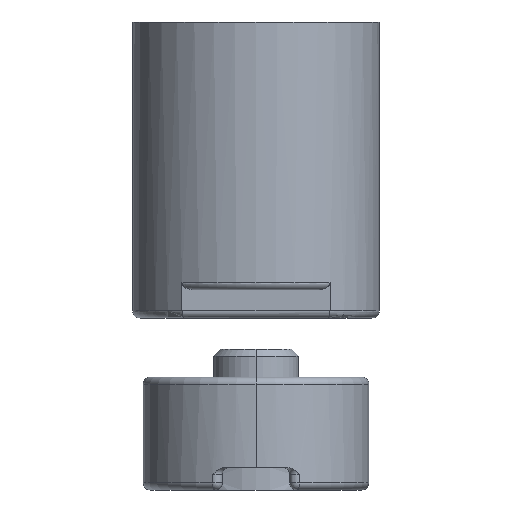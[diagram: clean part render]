
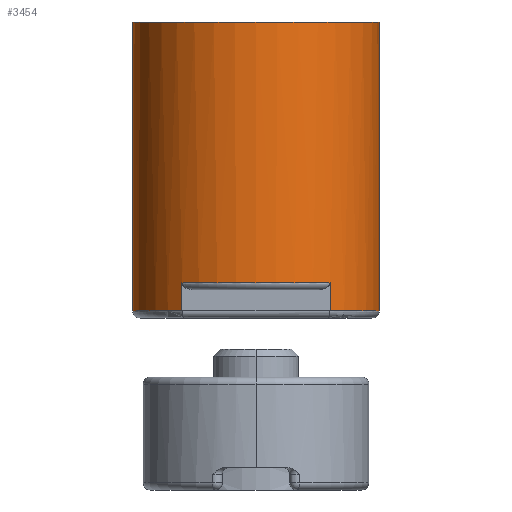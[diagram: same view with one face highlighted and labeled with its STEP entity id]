
A CAD part, front view. The second image highlights one B-rep face of the part: STEP entity #3454.
In plain terms, the highlighted cylindrical face has radius 8.75 mm (diameter 17.5 mm), a partial arc.
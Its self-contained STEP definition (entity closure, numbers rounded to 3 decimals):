
#2897=CARTESIAN_POINT('',(8.75,8.75,33.2));
#2898=DIRECTION('',(0.,0.,1.));
#2899=DIRECTION('',(-1.,0.,0.));
#2900=AXIS2_PLACEMENT_3D('',#2897,#2898,#2899);
#2917=DIRECTION('',(0.,0.,1.));
#2918=VECTOR('',#2917,20.5);
#2919=CARTESIAN_POINT('',(17.5,8.75,12.7));
#2920=LINE('',#2919,#2918);
#2936=CARTESIAN_POINT('',(8.75,8.75,12.7));
#2937=DIRECTION('',(0.,0.,1.));
#2938=DIRECTION('',(0.6,-0.8,0.));
#2939=AXIS2_PLACEMENT_3D('',#2936,#2937,#2938);
#2941=CARTESIAN_POINT('',(8.75,8.75,14.7));
#2942=DIRECTION('',(0.,0.,1.));
#2943=DIRECTION('',(-0.6,-0.8,0.));
#2944=AXIS2_PLACEMENT_3D('',#2941,#2942,#2943);
#2946=CARTESIAN_POINT('',(8.75,8.75,12.7));
#2947=DIRECTION('',(0.,0.,1.));
#2948=DIRECTION('',(-1.,0.,0.));
#2949=AXIS2_PLACEMENT_3D('',#2946,#2947,#2948);
#2951=DIRECTION('',(0.,0.,1.));
#2952=VECTOR('',#2951,20.5);
#2953=CARTESIAN_POINT('',(0.,8.75,12.7));
#2954=LINE('',#2953,#2952);
#2955=DIRECTION('',(0.,0.,-1.));
#2956=VECTOR('',#2955,2.);
#2957=CARTESIAN_POINT('',(14.,1.75,14.7));
#2958=LINE('',#2957,#2956);
#2963=DIRECTION('',(0.,0.,1.));
#2964=VECTOR('',#2963,2.);
#2965=CARTESIAN_POINT('',(3.5,1.75,12.7));
#2966=LINE('',#2965,#2964);
#3134=CARTESIAN_POINT('',(17.5,8.75,33.2));
#3135=CARTESIAN_POINT('',(0.,8.75,33.2));
#3136=VERTEX_POINT('',#3134);
#3137=VERTEX_POINT('',#3135);
#3166=CARTESIAN_POINT('',(17.5,8.75,12.7));
#3168=VERTEX_POINT('',#3166);
#3170=CARTESIAN_POINT('',(14.,1.75,12.7));
#3171=VERTEX_POINT('',#3170);
#3172=CARTESIAN_POINT('',(0.,8.75,12.7));
#3173=CARTESIAN_POINT('',(3.5,1.75,12.7));
#3174=VERTEX_POINT('',#3172);
#3175=VERTEX_POINT('',#3173);
#3190=CARTESIAN_POINT('',(3.5,1.75,14.7));
#3191=CARTESIAN_POINT('',(14.,1.75,14.7));
#3192=VERTEX_POINT('',#3190);
#3193=VERTEX_POINT('',#3191);
#3435=CARTESIAN_POINT('',(8.75,8.75,0.));
#3436=DIRECTION('',(0.,0.,1.));
#3437=DIRECTION('',(1.,0.,0.));
#3438=AXIS2_PLACEMENT_3D('',#3435,#3436,#3437);
#3439=CYLINDRICAL_SURFACE('',#3438,8.75);
#3440=ORIENTED_EDGE('',*,*,#3423,.F.);
#3442=ORIENTED_EDGE('',*,*,#3441,.F.);
#3444=ORIENTED_EDGE('',*,*,#3443,.F.);
#3446=ORIENTED_EDGE('',*,*,#3445,.F.);
#3448=ORIENTED_EDGE('',*,*,#3447,.F.);
#3449=ORIENTED_EDGE('',*,*,#3405,.T.);
#3450=ORIENTED_EDGE('',*,*,#3386,.T.);
#3451=ORIENTED_EDGE('',*,*,#3402,.F.);
#3452=EDGE_LOOP('',(#3440,#3442,#3444,#3446,#3448,#3449,#3450,#3451));
#3453=FACE_OUTER_BOUND('',#3452,.F.);
#3454=ADVANCED_FACE('',(#3453),#3439,.T.);
#2901=CIRCLE('',#2900,8.75);
#2940=CIRCLE('',#2939,8.75);
#2945=CIRCLE('',#2944,8.75);
#2950=CIRCLE('',#2949,8.75);
#3386=EDGE_CURVE('',#3137,#3136,#2901,.T.);
#3402=EDGE_CURVE('',#3168,#3136,#2920,.T.);
#3405=EDGE_CURVE('',#3174,#3137,#2954,.T.);
#3423=EDGE_CURVE('',#3171,#3168,#2940,.T.);
#3441=EDGE_CURVE('',#3193,#3171,#2958,.T.);
#3443=EDGE_CURVE('',#3192,#3193,#2945,.T.);
#3445=EDGE_CURVE('',#3175,#3192,#2966,.T.);
#3447=EDGE_CURVE('',#3174,#3175,#2950,.T.);
